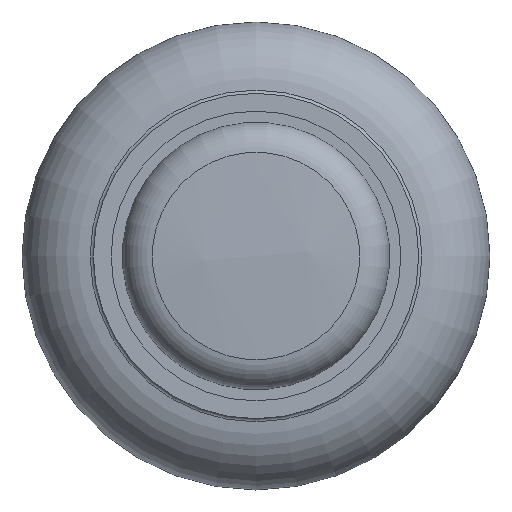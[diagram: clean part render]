
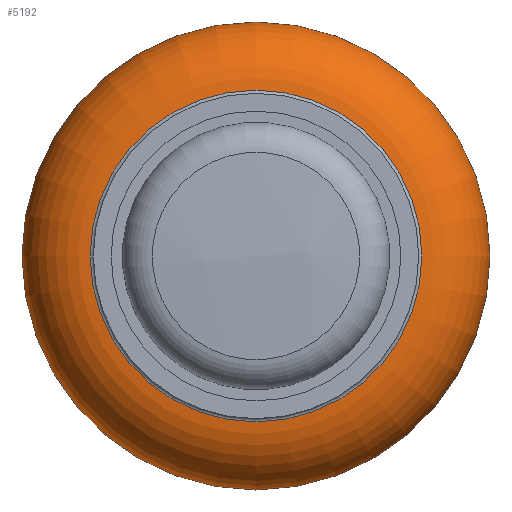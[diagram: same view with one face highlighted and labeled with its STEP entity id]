
A CAD part, front view. The second image highlights one B-rep face of the part: STEP entity #5192.
In plain terms, the highlighted toroidal (fillet/blend) face has major radius 73 mm and minor radius 32 mm.
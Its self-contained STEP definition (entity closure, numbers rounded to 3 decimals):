
#136=TOROIDAL_SURFACE('',#6068,73.,32.);
#681=FACE_OUTER_BOUND('',#1064,.T.);
#1064=EDGE_LOOP('',(#4628,#4629,#4630,#4631,#4632));
#2138=CIRCLE('',#6030,74.433);
#2162=CIRCLE('',#6066,105.);
#2163=CIRCLE('',#6067,105.);
#2164=CIRCLE('',#6069,32.);
#2603=VERTEX_POINT('',#9691);
#2622=VERTEX_POINT('',#9750);
#2623=VERTEX_POINT('',#9751);
#3270=EDGE_CURVE('',#2603,#2603,#2138,.T.);
#3298=EDGE_CURVE('',#2622,#2623,#2162,.T.);
#3300=EDGE_CURVE('',#2623,#2622,#2163,.T.);
#3301=EDGE_CURVE('',#2603,#2623,#2164,.T.);
#4628=ORIENTED_EDGE('',*,*,#3270,.F.);
#4629=ORIENTED_EDGE('',*,*,#3301,.T.);
#4630=ORIENTED_EDGE('',*,*,#3300,.T.);
#4631=ORIENTED_EDGE('',*,*,#3298,.T.);
#4632=ORIENTED_EDGE('',*,*,#3301,.F.);
#5192=ADVANCED_FACE('',(#681),#136,.T.);
#6030=AXIS2_PLACEMENT_3D('',#9692,#7475,#7476);
#6066=AXIS2_PLACEMENT_3D('',#9752,#7551,#7552);
#6067=AXIS2_PLACEMENT_3D('',#9754,#7554,#7555);
#6068=AXIS2_PLACEMENT_3D('',#9755,#7556,#7557);
#6069=AXIS2_PLACEMENT_3D('',#9756,#7558,#7559);
#7475=DIRECTION('center_axis',(0.,-1.,0.));
#7476=DIRECTION('ref_axis',(-1.,0.,0.));
#7551=DIRECTION('center_axis',(0.,-1.,0.));
#7552=DIRECTION('ref_axis',(1.,0.,0.));
#7554=DIRECTION('center_axis',(0.,-1.,0.));
#7555=DIRECTION('ref_axis',(1.,0.,0.));
#7556=DIRECTION('center_axis',(0.,-1.,0.));
#7557=DIRECTION('ref_axis',(0.,0.,-1.));
#7558=DIRECTION('center_axis',(-1.,0.,0.));
#7559=DIRECTION('ref_axis',(0.,0.,1.));
#9691=CARTESIAN_POINT('',(0.,0.032,74.433));
#9692=CARTESIAN_POINT('Origin',(0.,0.032,
0.));
#9750=CARTESIAN_POINT('',(-105.,32.,0.));
#9751=CARTESIAN_POINT('',(0.,32.,105.));
#9752=CARTESIAN_POINT('Origin',(0.,32.,0.));
#9754=CARTESIAN_POINT('Origin',(0.,32.,0.));
#9755=CARTESIAN_POINT('Origin',(0.,32.,0.));
#9756=CARTESIAN_POINT('Origin',(0.,32.,73.));
